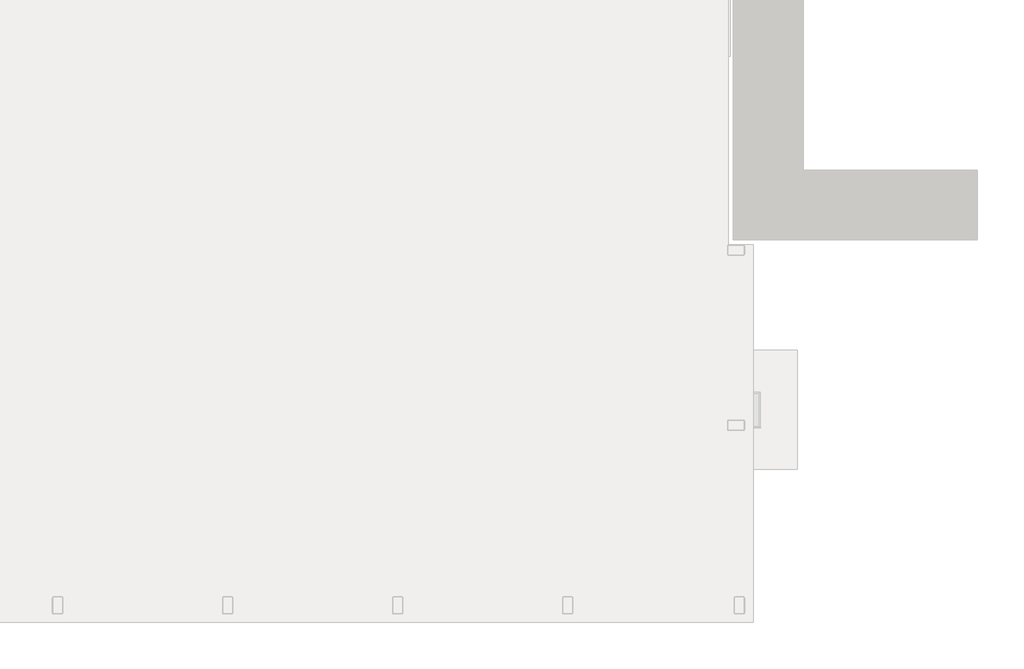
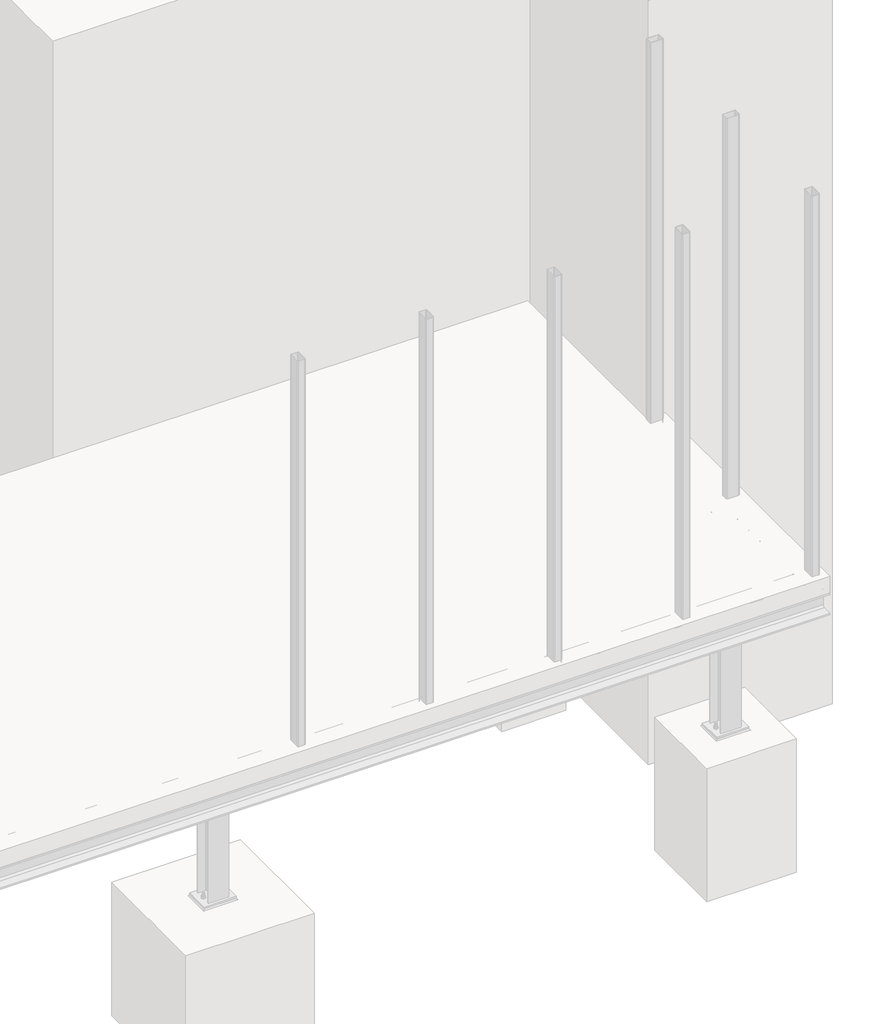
# One storey, part 16 of 36: 11 proxies.
"""IFC4 building model written with IfcOpenShell, lengths in millimetres."""

from ifc_helpers import new_model, si_unit, point, frame, frame_2d, origin, place, context, project, spatial, polyline, circle_curve, trimmed, segment, composite_curve, outline, extrude, element, save

model = new_model("IFC4")

# Units and contexts
model_context = context("Model", 3, world=origin())
ifc_project = project(units=[si_unit("LENGTHUNIT", "METRE", prefix="MILLI")], contexts=[model_context])

# Site, building, storey
site = spatial("IfcSite", under=ifc_project)
building = spatial("IfcBuilding", under=site)
storey = spatial("IfcBuildingStorey", under=building, Name="Základy", Elevation=-1200.0)

# Proxies
placement = place(None, origin())
element("IfcBuildingElementProxy", 1, Name="PLECH", ObjectType="PLECH", at=placement, inside=storey, context=model_context, shape_type="SweptSolid", body=[
    extrude(outline(polyline([(15950.0, 1170.0), (15950.0, 1350.0), (15960.0, 1350.0), (15960.0, 1170.0), (15950.0, 1170.0)])), frame((0.0, 0.0, -332.0), z_axis=(0.0, 0.0, 1.0), x_axis=(1.0, 0.0, 0.0)), (0.0, 0.0, 1.0), 164.0),
])
element("IfcBuildingElementProxy", 2, Name="PLECH", ObjectType="PLECH", at=placement, inside=storey, context=model_context, shape_type="SweptSolid", body=[
    extrude(outline(polyline([(13985.0, 210.0), (14115.0, 210.0), (14115.0, 200.0), (13985.0, 200.0), (13985.0, 210.0)])), frame((0.0, 0.0, -332.0), z_axis=(0.0, 0.0, 1.0), x_axis=(1.0, 0.0, 0.0)), (0.0, 0.0, 1.0), 164.0),
])
element("IfcBuildingElementProxy", 3, Name="PLECH", ObjectType="PLECH", at=placement, inside=storey, context=model_context, shape_type="SweptSolid", body=[
    extrude(outline(polyline([(13985.0, 1160.0), (14115.0, 1160.0), (14115.0, 1150.0), (13985.0, 1150.0), (13985.0, 1160.0)])), frame((0.0, 0.0, -332.0), z_axis=(0.0, 0.0, 1.0), x_axis=(1.0, 0.0, 0.0)), (0.0, 0.0, 1.0), 164.0),
])
element("IfcBuildingElementProxy", 4, Name="PLECH", ObjectType="PLECH", at=placement, inside=storey, context=model_context, shape_type="SweptSolid", body=[
    extrude(outline(composite_curve([segment(polyline([(1170.0, -174.0), (1235.75, -174.0)]), True, "CONTINUOUS"), segment(trimmed(circle_curve(frame_2d((1255.75, -174.0)), 20.0), [point((1235.75, -174.0))], [point((1255.75, -194.0))], True, "CARTESIAN"), True, "CONTINUOUS"), segment(polyline([(1255.75, -194.0), (1255.75, -306.0)]), True, "CONTINUOUS"), segment(trimmed(circle_curve(frame_2d((1255.75, -326.0)), 20.0), [point((1255.75, -306.0))], [point((1235.75, -326.0))], True, "CARTESIAN"), True, "CONTINUOUS"), segment(polyline([(1235.75, -326.0), (1170.0, -326.0), (1170.0, -174.0)]), True, "CONTINUOUS")], self_intersect=False)), frame((14046.0, 0.0, 0.0), z_axis=(1.0, 0.0, 0.0), x_axis=(0.0, 1.0, 0.0)), (0.0, 0.0, 1.0), 8.0),
])
element("IfcBuildingElementProxy", 5, Name="PLECH", ObjectType="PLECH", at=placement, inside=storey, context=model_context, shape_type="SweptSolid", body=[
    extrude(outline(polyline([(13985.0, 1170.0), (14115.0, 1170.0), (14115.0, 1160.0), (13985.0, 1160.0), (13985.0, 1170.0)])), frame((0.0, 0.0, -332.0), z_axis=(0.0, 0.0, 1.0), x_axis=(1.0, 0.0, 0.0)), (0.0, 0.0, 1.0), 164.0),
])
element("IfcBuildingElementProxy", 6, Name="PLECH", ObjectType="PLECH", at=placement, inside=storey, context=model_context, shape_type="SweptSolid", body=[
    extrude(outline(composite_curve([segment(polyline([(1350.0, -174.0), (1350.0, -326.0), (1284.25, -326.0)]), True, "CONTINUOUS"), segment(trimmed(circle_curve(frame_2d((1264.25, -326.0)), 20.0), [point((1284.25, -326.0))], [point((1264.25, -306.0))], True, "CARTESIAN"), True, "CONTINUOUS"), segment(polyline([(1264.25, -306.0), (1264.25, -194.0)]), True, "CONTINUOUS"), segment(trimmed(circle_curve(frame_2d((1264.25, -174.0)), 20.0), [point((1264.25, -194.0))], [point((1284.25, -174.0))], True, "CARTESIAN"), True, "CONTINUOUS"), segment(polyline([(1284.25, -174.0), (1350.0, -174.0)]), True, "CONTINUOUS")], self_intersect=False)), frame((14046.0, 0.0, 0.0), z_axis=(1.0, 0.0, 0.0), x_axis=(0.0, 1.0, 0.0)), (0.0, 0.0, 1.0), 8.0),
])
element("IfcBuildingElementProxy", 7, Name="PLECH", ObjectType="PLECH", at=placement, inside=storey, context=model_context, shape_type="SweptSolid", body=[
    extrude(outline(polyline([(13985.0, 1360.0), (14115.0, 1360.0), (14115.0, 1350.0), (13985.0, 1350.0), (13985.0, 1360.0)])), frame((0.0, 0.0, -332.0), z_axis=(0.0, 0.0, 1.0), x_axis=(1.0, 0.0, 0.0)), (0.0, 0.0, 1.0), 164.0),
])
element("IfcBuildingElementProxy", 8, Name="PLECH", ObjectType="PLECH", at=placement, inside=storey, context=model_context, shape_type="SweptSolid", body=[
    extrude(outline(polyline([(13985.0, 1370.0), (14115.0, 1370.0), (14115.0, 1360.0), (13985.0, 1360.0), (13985.0, 1370.0)])), frame((0.0, 0.0, -332.0), z_axis=(0.0, 0.0, 1.0), x_axis=(1.0, 0.0, 0.0)), (0.0, 0.0, 1.0), 164.0),
])
element("IfcBuildingElementProxy", 9, Name="Bolt assembly", ObjectType="Bolt assembly", at=placement, inside=storey, context=model_context, shape_type="SweptSolid", body=[
    extrude(outline(composite_curve([segment(trimmed(circle_curve(frame_2d((-290.0, 14015.0)), 9.0), [point((-290.0, 14024.0))], [point((-290.0, 14006.0))], False, "CARTESIAN"), True, "CONTINUOUS"), segment(trimmed(circle_curve(frame_2d((-290.0, 14015.0)), 9.0), [point((-290.0, 14006.0))], [point((-290.0, 14024.0))], False, "CARTESIAN"), True, "CONTINUOUS")], self_intersect=False)), frame((0.0, 190.1, 0.0), z_axis=(0.0, 1.0, 0.0), x_axis=(0.0, 0.0, 1.0)), (0.0, 0.0, 1.0), 10.0),
    extrude(outline(polyline([(-290.0, 14028.8564065), (-278.0, 14021.9282032), (-278.0, 14008.0717968), (-290.0, 14001.1435935), (-302.0, 14008.0717968), (-302.0, 14021.9282032), (-290.0, 14028.8564065)])), frame((0.0, 177.0, 0.0), z_axis=(0.0, 1.0, 0.0), x_axis=(0.0, 0.0, 1.0)), (0.0, 0.0, 1.0), 10.0),
    extrude(outline(composite_curve([segment(trimmed(circle_curve(frame_2d((-290.0, 14015.0)), 8.0), [point((-290.0, 14023.0))], [point((-290.0, 14007.0))], False, "CARTESIAN"), True, "CONTINUOUS"), segment(trimmed(circle_curve(frame_2d((-290.0, 14015.0)), 8.0), [point((-290.0, 14007.0))], [point((-290.0, 14023.0))], False, "CARTESIAN"), True, "CONTINUOUS")], self_intersect=False)), frame((0.0, 187.0, 0.0), z_axis=(0.0, 1.0, 0.0), x_axis=(0.0, 0.0, 1.0)), (0.0, 0.0, 1.0), 50.0),
    extrude(outline(composite_curve([segment(trimmed(circle_curve(frame_2d((-290.0, 14015.0)), 15.0), [point((-290.0, 14030.0))], [point((-290.0, 14000.0))], False, "CARTESIAN"), True, "CONTINUOUS"), segment(trimmed(circle_curve(frame_2d((-290.0, 14015.0)), 15.0), [point((-290.0, 14000.0))], [point((-290.0, 14030.0))], False, "CARTESIAN"), True, "CONTINUOUS")], self_intersect=False)), frame((0.0, 187.0, 0.0), z_axis=(0.0, 1.0, 0.0), x_axis=(0.0, 0.0, 1.0)), (0.0, 0.0, 1.0), 3.0),
    extrude(outline(composite_curve([segment(trimmed(circle_curve(frame_2d((-290.0, 14015.0)), 15.0), [point((-290.0, 14030.0))], [point((-290.0, 14000.0))], False, "CARTESIAN"), True, "CONTINUOUS"), segment(trimmed(circle_curve(frame_2d((-290.0, 14015.0)), 15.0), [point((-290.0, 14000.0))], [point((-290.0, 14030.0))], False, "CARTESIAN"), True, "CONTINUOUS")], self_intersect=False)), frame((0.0, 210.0, 0.0), z_axis=(0.0, 1.0, 0.0), x_axis=(0.0, 0.0, 1.0)), (0.0, 0.0, 1.0), 3.0),
    extrude(outline(polyline([(-290.0, 14030.4441197), (-276.625, 14022.7220599), (-276.625, 14007.2779401), (-290.0, 13999.5558803), (-303.375, 14007.2779401), (-303.375, 14022.7220599), (-290.0, 14030.4441197)])), frame((0.0, 213.0, 0.0), z_axis=(0.0, 1.0, 0.0), x_axis=(0.0, 0.0, 1.0)), (0.0, 0.0, 1.0), 13.0),
    extrude(outline(composite_curve([segment(trimmed(circle_curve(frame_2d((-290.0, 14015.0)), 9.0), [point((-290.0, 14024.0))], [point((-290.0, 14006.0))], False, "CARTESIAN"), True, "CONTINUOUS"), segment(trimmed(circle_curve(frame_2d((-290.0, 14015.0)), 9.0), [point((-290.0, 14006.0))], [point((-290.0, 14024.0))], False, "CARTESIAN"), True, "CONTINUOUS")], self_intersect=False)), frame((0.0, 199.9, 0.0), z_axis=(0.0, 1.0, 0.0), x_axis=(0.0, 0.0, 1.0)), (0.0, 0.0, 1.0), 10.1),
    extrude(outline(composite_curve([segment(trimmed(circle_curve(frame_2d((-290.0, 14085.0)), 9.0), [point((-290.0, 14094.0))], [point((-290.0, 14076.0))], False, "CARTESIAN"), True, "CONTINUOUS"), segment(trimmed(circle_curve(frame_2d((-290.0, 14085.0)), 9.0), [point((-290.0, 14076.0))], [point((-290.0, 14094.0))], False, "CARTESIAN"), True, "CONTINUOUS")], self_intersect=False)), frame((0.0, 190.1, 0.0), z_axis=(0.0, 1.0, 0.0), x_axis=(0.0, 0.0, 1.0)), (0.0, 0.0, 1.0), 10.0),
    extrude(outline(polyline([(-290.0, 14098.8564065), (-278.0, 14091.9282032), (-278.0, 14078.0717968), (-290.0, 14071.1435935), (-302.0, 14078.0717968), (-302.0, 14091.9282032), (-290.0, 14098.8564065)])), frame((0.0, 177.0, 0.0), z_axis=(0.0, 1.0, 0.0), x_axis=(0.0, 0.0, 1.0)), (0.0, 0.0, 1.0), 10.0),
    extrude(outline(composite_curve([segment(trimmed(circle_curve(frame_2d((-290.0, 14085.0)), 8.0), [point((-290.0, 14093.0))], [point((-290.0, 14077.0))], False, "CARTESIAN"), True, "CONTINUOUS"), segment(trimmed(circle_curve(frame_2d((-290.0, 14085.0)), 8.0), [point((-290.0, 14077.0))], [point((-290.0, 14093.0))], False, "CARTESIAN"), True, "CONTINUOUS")], self_intersect=False)), frame((0.0, 187.0, 0.0), z_axis=(0.0, 1.0, 0.0), x_axis=(0.0, 0.0, 1.0)), (0.0, 0.0, 1.0), 50.0),
    extrude(outline(composite_curve([segment(trimmed(circle_curve(frame_2d((-290.0, 14085.0)), 15.0), [point((-290.0, 14100.0))], [point((-290.0, 14070.0))], False, "CARTESIAN"), True, "CONTINUOUS"), segment(trimmed(circle_curve(frame_2d((-290.0, 14085.0)), 15.0), [point((-290.0, 14070.0))], [point((-290.0, 14100.0))], False, "CARTESIAN"), True, "CONTINUOUS")], self_intersect=False)), frame((0.0, 187.0, 0.0), z_axis=(0.0, 1.0, 0.0), x_axis=(0.0, 0.0, 1.0)), (0.0, 0.0, 1.0), 3.0),
    extrude(outline(composite_curve([segment(trimmed(circle_curve(frame_2d((-290.0, 14085.0)), 15.0), [point((-290.0, 14100.0))], [point((-290.0, 14070.0))], False, "CARTESIAN"), True, "CONTINUOUS"), segment(trimmed(circle_curve(frame_2d((-290.0, 14085.0)), 15.0), [point((-290.0, 14070.0))], [point((-290.0, 14100.0))], False, "CARTESIAN"), True, "CONTINUOUS")], self_intersect=False)), frame((0.0, 210.0, 0.0), z_axis=(0.0, 1.0, 0.0), x_axis=(0.0, 0.0, 1.0)), (0.0, 0.0, 1.0), 3.0),
    extrude(outline(polyline([(-290.0, 14100.4441197), (-276.625, 14092.7220599), (-276.625, 14077.2779401), (-290.0, 14069.5558803), (-303.375, 14077.2779401), (-303.375, 14092.7220599), (-290.0, 14100.4441197)])), frame((0.0, 213.0, 0.0), z_axis=(0.0, 1.0, 0.0), x_axis=(0.0, 0.0, 1.0)), (0.0, 0.0, 1.0), 13.0),
    extrude(outline(composite_curve([segment(trimmed(circle_curve(frame_2d((-290.0, 14085.0)), 9.0), [point((-290.0, 14094.0))], [point((-290.0, 14076.0))], False, "CARTESIAN"), True, "CONTINUOUS"), segment(trimmed(circle_curve(frame_2d((-290.0, 14085.0)), 9.0), [point((-290.0, 14076.0))], [point((-290.0, 14094.0))], False, "CARTESIAN"), True, "CONTINUOUS")], self_intersect=False)), frame((0.0, 199.9, 0.0), z_axis=(0.0, 1.0, 0.0), x_axis=(0.0, 0.0, 1.0)), (0.0, 0.0, 1.0), 10.1),
    extrude(outline(composite_curve([segment(trimmed(circle_curve(frame_2d((-210.0, 14015.0)), 9.0), [point((-210.0, 14024.0))], [point((-210.0, 14006.0))], False, "CARTESIAN"), True, "CONTINUOUS"), segment(trimmed(circle_curve(frame_2d((-210.0, 14015.0)), 9.0), [point((-210.0, 14006.0))], [point((-210.0, 14024.0))], False, "CARTESIAN"), True, "CONTINUOUS")], self_intersect=False)), frame((0.0, 190.1, 0.0), z_axis=(0.0, 1.0, 0.0), x_axis=(0.0, 0.0, 1.0)), (0.0, 0.0, 1.0), 10.0),
    extrude(outline(polyline([(-210.0, 14028.8564065), (-198.0, 14021.9282032), (-198.0, 14008.0717968), (-210.0, 14001.1435935), (-222.0, 14008.0717968), (-222.0, 14021.9282032), (-210.0, 14028.8564065)])), frame((0.0, 177.0, 0.0), z_axis=(0.0, 1.0, 0.0), x_axis=(0.0, 0.0, 1.0)), (0.0, 0.0, 1.0), 10.0),
    extrude(outline(composite_curve([segment(trimmed(circle_curve(frame_2d((-210.0, 14015.0)), 8.0), [point((-210.0, 14023.0))], [point((-210.0, 14007.0))], False, "CARTESIAN"), True, "CONTINUOUS"), segment(trimmed(circle_curve(frame_2d((-210.0, 14015.0)), 8.0), [point((-210.0, 14007.0))], [point((-210.0, 14023.0))], False, "CARTESIAN"), True, "CONTINUOUS")], self_intersect=False)), frame((0.0, 187.0, 0.0), z_axis=(0.0, 1.0, 0.0), x_axis=(0.0, 0.0, 1.0)), (0.0, 0.0, 1.0), 50.0),
    extrude(outline(composite_curve([segment(trimmed(circle_curve(frame_2d((-210.0, 14015.0)), 15.0), [point((-210.0, 14030.0))], [point((-210.0, 14000.0))], False, "CARTESIAN"), True, "CONTINUOUS"), segment(trimmed(circle_curve(frame_2d((-210.0, 14015.0)), 15.0), [point((-210.0, 14000.0))], [point((-210.0, 14030.0))], False, "CARTESIAN"), True, "CONTINUOUS")], self_intersect=False)), frame((0.0, 187.0, 0.0), z_axis=(0.0, 1.0, 0.0), x_axis=(0.0, 0.0, 1.0)), (0.0, 0.0, 1.0), 3.0),
    extrude(outline(composite_curve([segment(trimmed(circle_curve(frame_2d((-210.0, 14015.0)), 15.0), [point((-210.0, 14030.0))], [point((-210.0, 14000.0))], False, "CARTESIAN"), True, "CONTINUOUS"), segment(trimmed(circle_curve(frame_2d((-210.0, 14015.0)), 15.0), [point((-210.0, 14000.0))], [point((-210.0, 14030.0))], False, "CARTESIAN"), True, "CONTINUOUS")], self_intersect=False)), frame((0.0, 210.0, 0.0), z_axis=(0.0, 1.0, 0.0), x_axis=(0.0, 0.0, 1.0)), (0.0, 0.0, 1.0), 3.0),
    extrude(outline(polyline([(-210.0, 14030.4441197), (-196.625, 14022.7220599), (-196.625, 14007.2779401), (-210.0, 13999.5558803), (-223.375, 14007.2779401), (-223.375, 14022.7220599), (-210.0, 14030.4441197)])), frame((0.0, 213.0, 0.0), z_axis=(0.0, 1.0, 0.0), x_axis=(0.0, 0.0, 1.0)), (0.0, 0.0, 1.0), 13.0),
    extrude(outline(composite_curve([segment(trimmed(circle_curve(frame_2d((-210.0, 14015.0)), 9.0), [point((-210.0, 14024.0))], [point((-210.0, 14006.0))], False, "CARTESIAN"), True, "CONTINUOUS"), segment(trimmed(circle_curve(frame_2d((-210.0, 14015.0)), 9.0), [point((-210.0, 14006.0))], [point((-210.0, 14024.0))], False, "CARTESIAN"), True, "CONTINUOUS")], self_intersect=False)), frame((0.0, 199.9, 0.0), z_axis=(0.0, 1.0, 0.0), x_axis=(0.0, 0.0, 1.0)), (0.0, 0.0, 1.0), 10.1),
    extrude(outline(composite_curve([segment(trimmed(circle_curve(frame_2d((-210.0, 14085.0)), 9.0), [point((-210.0, 14094.0))], [point((-210.0, 14076.0))], False, "CARTESIAN"), True, "CONTINUOUS"), segment(trimmed(circle_curve(frame_2d((-210.0, 14085.0)), 9.0), [point((-210.0, 14076.0))], [point((-210.0, 14094.0))], False, "CARTESIAN"), True, "CONTINUOUS")], self_intersect=False)), frame((0.0, 190.1, 0.0), z_axis=(0.0, 1.0, 0.0), x_axis=(0.0, 0.0, 1.0)), (0.0, 0.0, 1.0), 10.0),
    extrude(outline(polyline([(-210.0, 14098.8564065), (-198.0, 14091.9282032), (-198.0, 14078.0717968), (-210.0, 14071.1435935), (-222.0, 14078.0717968), (-222.0, 14091.9282032), (-210.0, 14098.8564065)])), frame((0.0, 177.0, 0.0), z_axis=(0.0, 1.0, 0.0), x_axis=(0.0, 0.0, 1.0)), (0.0, 0.0, 1.0), 10.0),
    extrude(outline(composite_curve([segment(trimmed(circle_curve(frame_2d((-210.0, 14085.0)), 8.0), [point((-210.0, 14093.0))], [point((-210.0, 14077.0))], False, "CARTESIAN"), True, "CONTINUOUS"), segment(trimmed(circle_curve(frame_2d((-210.0, 14085.0)), 8.0), [point((-210.0, 14077.0))], [point((-210.0, 14093.0))], False, "CARTESIAN"), True, "CONTINUOUS")], self_intersect=False)), frame((0.0, 187.0, 0.0), z_axis=(0.0, 1.0, 0.0), x_axis=(0.0, 0.0, 1.0)), (0.0, 0.0, 1.0), 50.0),
    extrude(outline(composite_curve([segment(trimmed(circle_curve(frame_2d((-210.0, 14085.0)), 15.0), [point((-210.0, 14100.0))], [point((-210.0, 14070.0))], False, "CARTESIAN"), True, "CONTINUOUS"), segment(trimmed(circle_curve(frame_2d((-210.0, 14085.0)), 15.0), [point((-210.0, 14070.0))], [point((-210.0, 14100.0))], False, "CARTESIAN"), True, "CONTINUOUS")], self_intersect=False)), frame((0.0, 187.0, 0.0), z_axis=(0.0, 1.0, 0.0), x_axis=(0.0, 0.0, 1.0)), (0.0, 0.0, 1.0), 3.0),
    extrude(outline(composite_curve([segment(trimmed(circle_curve(frame_2d((-210.0, 14085.0)), 15.0), [point((-210.0, 14100.0))], [point((-210.0, 14070.0))], False, "CARTESIAN"), True, "CONTINUOUS"), segment(trimmed(circle_curve(frame_2d((-210.0, 14085.0)), 15.0), [point((-210.0, 14070.0))], [point((-210.0, 14100.0))], False, "CARTESIAN"), True, "CONTINUOUS")], self_intersect=False)), frame((0.0, 210.0, 0.0), z_axis=(0.0, 1.0, 0.0), x_axis=(0.0, 0.0, 1.0)), (0.0, 0.0, 1.0), 3.0),
    extrude(outline(polyline([(-210.0, 14100.4441197), (-196.625, 14092.7220599), (-196.625, 14077.2779401), (-210.0, 14069.5558803), (-223.375, 14077.2779401), (-223.375, 14092.7220599), (-210.0, 14100.4441197)])), frame((0.0, 213.0, 0.0), z_axis=(0.0, 1.0, 0.0), x_axis=(0.0, 0.0, 1.0)), (0.0, 0.0, 1.0), 13.0),
    extrude(outline(composite_curve([segment(trimmed(circle_curve(frame_2d((-210.0, 14085.0)), 9.0), [point((-210.0, 14094.0))], [point((-210.0, 14076.0))], False, "CARTESIAN"), True, "CONTINUOUS"), segment(trimmed(circle_curve(frame_2d((-210.0, 14085.0)), 9.0), [point((-210.0, 14076.0))], [point((-210.0, 14094.0))], False, "CARTESIAN"), True, "CONTINUOUS")], self_intersect=False)), frame((0.0, 199.9, 0.0), z_axis=(0.0, 1.0, 0.0), x_axis=(0.0, 0.0, 1.0)), (0.0, 0.0, 1.0), 10.1),
])
element("IfcBuildingElementProxy", 10, Name="Bolt assembly", ObjectType="Bolt assembly", at=placement, inside=storey, context=model_context, shape_type="SweptSolid", body=[
    extrude(outline(composite_curve([segment(trimmed(circle_curve(frame_2d((-290.0, 14015.0)), 9.0), [point((-290.0, 14024.0))], [point((-290.0, 14006.0))], False, "CARTESIAN"), True, "CONTINUOUS"), segment(trimmed(circle_curve(frame_2d((-290.0, 14015.0)), 9.0), [point((-290.0, 14006.0))], [point((-290.0, 14024.0))], False, "CARTESIAN"), True, "CONTINUOUS")], self_intersect=False)), frame((0.0, 1159.9, 0.0), z_axis=(0.0, 1.0, 0.0), x_axis=(0.0, 0.0, 1.0)), (0.0, 0.0, 1.0), 10.0),
    extrude(outline(polyline([(-290.0, 14028.8564065), (-278.0, 14021.9282032), (-278.0, 14008.0717968), (-290.0, 14001.1435935), (-302.0, 14008.0717968), (-302.0, 14021.9282032), (-290.0, 14028.8564065)])), frame((0.0, 1173.0, 0.0), z_axis=(0.0, 1.0, 0.0), x_axis=(0.0, 0.0, 1.0)), (0.0, 0.0, 1.0), 10.0),
    extrude(outline(composite_curve([segment(trimmed(circle_curve(frame_2d((-290.0, 14015.0)), 8.0), [point((-290.0, 14023.0))], [point((-290.0, 14007.0))], False, "CARTESIAN"), True, "CONTINUOUS"), segment(trimmed(circle_curve(frame_2d((-290.0, 14015.0)), 8.0), [point((-290.0, 14007.0))], [point((-290.0, 14023.0))], False, "CARTESIAN"), True, "CONTINUOUS")], self_intersect=False)), frame((0.0, 1123.0, 0.0), z_axis=(0.0, 1.0, 0.0), x_axis=(0.0, 0.0, 1.0)), (0.0, 0.0, 1.0), 50.0),
    extrude(outline(composite_curve([segment(trimmed(circle_curve(frame_2d((-290.0, 14015.0)), 15.0), [point((-290.0, 14030.0))], [point((-290.0, 14000.0))], False, "CARTESIAN"), True, "CONTINUOUS"), segment(trimmed(circle_curve(frame_2d((-290.0, 14015.0)), 15.0), [point((-290.0, 14000.0))], [point((-290.0, 14030.0))], False, "CARTESIAN"), True, "CONTINUOUS")], self_intersect=False)), frame((0.0, 1170.0, 0.0), z_axis=(0.0, 1.0, 0.0), x_axis=(0.0, 0.0, 1.0)), (0.0, 0.0, 1.0), 3.0),
    extrude(outline(composite_curve([segment(trimmed(circle_curve(frame_2d((-290.0, 14015.0)), 15.0), [point((-290.0, 14030.0))], [point((-290.0, 14000.0))], False, "CARTESIAN"), True, "CONTINUOUS"), segment(trimmed(circle_curve(frame_2d((-290.0, 14015.0)), 15.0), [point((-290.0, 14000.0))], [point((-290.0, 14030.0))], False, "CARTESIAN"), True, "CONTINUOUS")], self_intersect=False)), frame((0.0, 1147.0, 0.0), z_axis=(0.0, 1.0, 0.0), x_axis=(0.0, 0.0, 1.0)), (0.0, 0.0, 1.0), 3.0),
    extrude(outline(polyline([(-290.0, 14030.4441197), (-276.625, 14022.7220599), (-276.625, 14007.2779401), (-290.0, 13999.5558803), (-303.375, 14007.2779401), (-303.375, 14022.7220599), (-290.0, 14030.4441197)])), frame((0.0, 1134.0, 0.0), z_axis=(0.0, 1.0, 0.0), x_axis=(0.0, 0.0, 1.0)), (0.0, 0.0, 1.0), 13.0),
    extrude(outline(composite_curve([segment(trimmed(circle_curve(frame_2d((-290.0, 14015.0)), 9.0), [point((-290.0, 14024.0))], [point((-290.0, 14006.0))], False, "CARTESIAN"), True, "CONTINUOUS"), segment(trimmed(circle_curve(frame_2d((-290.0, 14015.0)), 9.0), [point((-290.0, 14006.0))], [point((-290.0, 14024.0))], False, "CARTESIAN"), True, "CONTINUOUS")], self_intersect=False)), frame((0.0, 1150.0, 0.0), z_axis=(0.0, 1.0, 0.0), x_axis=(0.0, 0.0, 1.0)), (0.0, 0.0, 1.0), 10.1),
    extrude(outline(composite_curve([segment(trimmed(circle_curve(frame_2d((-290.0, 14085.0)), 9.0), [point((-290.0, 14094.0))], [point((-290.0, 14076.0))], False, "CARTESIAN"), True, "CONTINUOUS"), segment(trimmed(circle_curve(frame_2d((-290.0, 14085.0)), 9.0), [point((-290.0, 14076.0))], [point((-290.0, 14094.0))], False, "CARTESIAN"), True, "CONTINUOUS")], self_intersect=False)), frame((0.0, 1159.9, 0.0), z_axis=(0.0, 1.0, 0.0), x_axis=(0.0, 0.0, 1.0)), (0.0, 0.0, 1.0), 10.0),
    extrude(outline(polyline([(-290.0, 14098.8564065), (-278.0, 14091.9282032), (-278.0, 14078.0717968), (-290.0, 14071.1435935), (-302.0, 14078.0717968), (-302.0, 14091.9282032), (-290.0, 14098.8564065)])), frame((0.0, 1173.0, 0.0), z_axis=(0.0, 1.0, 0.0), x_axis=(0.0, 0.0, 1.0)), (0.0, 0.0, 1.0), 10.0),
    extrude(outline(composite_curve([segment(trimmed(circle_curve(frame_2d((-290.0, 14085.0)), 8.0), [point((-290.0, 14093.0))], [point((-290.0, 14077.0))], False, "CARTESIAN"), True, "CONTINUOUS"), segment(trimmed(circle_curve(frame_2d((-290.0, 14085.0)), 8.0), [point((-290.0, 14077.0))], [point((-290.0, 14093.0))], False, "CARTESIAN"), True, "CONTINUOUS")], self_intersect=False)), frame((0.0, 1123.0, 0.0), z_axis=(0.0, 1.0, 0.0), x_axis=(0.0, 0.0, 1.0)), (0.0, 0.0, 1.0), 50.0),
    extrude(outline(composite_curve([segment(trimmed(circle_curve(frame_2d((-290.0, 14085.0)), 15.0), [point((-290.0, 14100.0))], [point((-290.0, 14070.0))], False, "CARTESIAN"), True, "CONTINUOUS"), segment(trimmed(circle_curve(frame_2d((-290.0, 14085.0)), 15.0), [point((-290.0, 14070.0))], [point((-290.0, 14100.0))], False, "CARTESIAN"), True, "CONTINUOUS")], self_intersect=False)), frame((0.0, 1170.0, 0.0), z_axis=(0.0, 1.0, 0.0), x_axis=(0.0, 0.0, 1.0)), (0.0, 0.0, 1.0), 3.0),
    extrude(outline(composite_curve([segment(trimmed(circle_curve(frame_2d((-290.0, 14085.0)), 15.0), [point((-290.0, 14100.0))], [point((-290.0, 14070.0))], False, "CARTESIAN"), True, "CONTINUOUS"), segment(trimmed(circle_curve(frame_2d((-290.0, 14085.0)), 15.0), [point((-290.0, 14070.0))], [point((-290.0, 14100.0))], False, "CARTESIAN"), True, "CONTINUOUS")], self_intersect=False)), frame((0.0, 1147.0, 0.0), z_axis=(0.0, 1.0, 0.0), x_axis=(0.0, 0.0, 1.0)), (0.0, 0.0, 1.0), 3.0),
    extrude(outline(polyline([(-290.0, 14100.4441197), (-276.625, 14092.7220599), (-276.625, 14077.2779401), (-290.0, 14069.5558803), (-303.375, 14077.2779401), (-303.375, 14092.7220599), (-290.0, 14100.4441197)])), frame((0.0, 1134.0, 0.0), z_axis=(0.0, 1.0, 0.0), x_axis=(0.0, 0.0, 1.0)), (0.0, 0.0, 1.0), 13.0),
    extrude(outline(composite_curve([segment(trimmed(circle_curve(frame_2d((-290.0, 14085.0)), 9.0), [point((-290.0, 14094.0))], [point((-290.0, 14076.0))], False, "CARTESIAN"), True, "CONTINUOUS"), segment(trimmed(circle_curve(frame_2d((-290.0, 14085.0)), 9.0), [point((-290.0, 14076.0))], [point((-290.0, 14094.0))], False, "CARTESIAN"), True, "CONTINUOUS")], self_intersect=False)), frame((0.0, 1150.0, 0.0), z_axis=(0.0, 1.0, 0.0), x_axis=(0.0, 0.0, 1.0)), (0.0, 0.0, 1.0), 10.1),
    extrude(outline(composite_curve([segment(trimmed(circle_curve(frame_2d((-210.0, 14015.0)), 9.0), [point((-210.0, 14024.0))], [point((-210.0, 14006.0))], False, "CARTESIAN"), True, "CONTINUOUS"), segment(trimmed(circle_curve(frame_2d((-210.0, 14015.0)), 9.0), [point((-210.0, 14006.0))], [point((-210.0, 14024.0))], False, "CARTESIAN"), True, "CONTINUOUS")], self_intersect=False)), frame((0.0, 1159.9, 0.0), z_axis=(0.0, 1.0, 0.0), x_axis=(0.0, 0.0, 1.0)), (0.0, 0.0, 1.0), 10.0),
    extrude(outline(polyline([(-210.0, 14028.8564065), (-198.0, 14021.9282032), (-198.0, 14008.0717968), (-210.0, 14001.1435935), (-222.0, 14008.0717968), (-222.0, 14021.9282032), (-210.0, 14028.8564065)])), frame((0.0, 1173.0, 0.0), z_axis=(0.0, 1.0, 0.0), x_axis=(0.0, 0.0, 1.0)), (0.0, 0.0, 1.0), 10.0),
    extrude(outline(composite_curve([segment(trimmed(circle_curve(frame_2d((-210.0, 14015.0)), 8.0), [point((-210.0, 14023.0))], [point((-210.0, 14007.0))], False, "CARTESIAN"), True, "CONTINUOUS"), segment(trimmed(circle_curve(frame_2d((-210.0, 14015.0)), 8.0), [point((-210.0, 14007.0))], [point((-210.0, 14023.0))], False, "CARTESIAN"), True, "CONTINUOUS")], self_intersect=False)), frame((0.0, 1123.0, 0.0), z_axis=(0.0, 1.0, 0.0), x_axis=(0.0, 0.0, 1.0)), (0.0, 0.0, 1.0), 50.0),
    extrude(outline(composite_curve([segment(trimmed(circle_curve(frame_2d((-210.0, 14015.0)), 15.0), [point((-210.0, 14030.0))], [point((-210.0, 14000.0))], False, "CARTESIAN"), True, "CONTINUOUS"), segment(trimmed(circle_curve(frame_2d((-210.0, 14015.0)), 15.0), [point((-210.0, 14000.0))], [point((-210.0, 14030.0))], False, "CARTESIAN"), True, "CONTINUOUS")], self_intersect=False)), frame((0.0, 1170.0, 0.0), z_axis=(0.0, 1.0, 0.0), x_axis=(0.0, 0.0, 1.0)), (0.0, 0.0, 1.0), 3.0),
    extrude(outline(composite_curve([segment(trimmed(circle_curve(frame_2d((-210.0, 14015.0)), 15.0), [point((-210.0, 14030.0))], [point((-210.0, 14000.0))], False, "CARTESIAN"), True, "CONTINUOUS"), segment(trimmed(circle_curve(frame_2d((-210.0, 14015.0)), 15.0), [point((-210.0, 14000.0))], [point((-210.0, 14030.0))], False, "CARTESIAN"), True, "CONTINUOUS")], self_intersect=False)), frame((0.0, 1147.0, 0.0), z_axis=(0.0, 1.0, 0.0), x_axis=(0.0, 0.0, 1.0)), (0.0, 0.0, 1.0), 3.0),
    extrude(outline(polyline([(-210.0, 14030.4441197), (-196.625, 14022.7220599), (-196.625, 14007.2779401), (-210.0, 13999.5558803), (-223.375, 14007.2779401), (-223.375, 14022.7220599), (-210.0, 14030.4441197)])), frame((0.0, 1134.0, 0.0), z_axis=(0.0, 1.0, 0.0), x_axis=(0.0, 0.0, 1.0)), (0.0, 0.0, 1.0), 13.0),
    extrude(outline(composite_curve([segment(trimmed(circle_curve(frame_2d((-210.0, 14015.0)), 9.0), [point((-210.0, 14024.0))], [point((-210.0, 14006.0))], False, "CARTESIAN"), True, "CONTINUOUS"), segment(trimmed(circle_curve(frame_2d((-210.0, 14015.0)), 9.0), [point((-210.0, 14006.0))], [point((-210.0, 14024.0))], False, "CARTESIAN"), True, "CONTINUOUS")], self_intersect=False)), frame((0.0, 1150.0, 0.0), z_axis=(0.0, 1.0, 0.0), x_axis=(0.0, 0.0, 1.0)), (0.0, 0.0, 1.0), 10.1),
    extrude(outline(composite_curve([segment(trimmed(circle_curve(frame_2d((-210.0, 14085.0)), 9.0), [point((-210.0, 14094.0))], [point((-210.0, 14076.0))], False, "CARTESIAN"), True, "CONTINUOUS"), segment(trimmed(circle_curve(frame_2d((-210.0, 14085.0)), 9.0), [point((-210.0, 14076.0))], [point((-210.0, 14094.0))], False, "CARTESIAN"), True, "CONTINUOUS")], self_intersect=False)), frame((0.0, 1159.9, 0.0), z_axis=(0.0, 1.0, 0.0), x_axis=(0.0, 0.0, 1.0)), (0.0, 0.0, 1.0), 10.0),
    extrude(outline(polyline([(-210.0, 14098.8564065), (-198.0, 14091.9282032), (-198.0, 14078.0717968), (-210.0, 14071.1435935), (-222.0, 14078.0717968), (-222.0, 14091.9282032), (-210.0, 14098.8564065)])), frame((0.0, 1173.0, 0.0), z_axis=(0.0, 1.0, 0.0), x_axis=(0.0, 0.0, 1.0)), (0.0, 0.0, 1.0), 10.0),
    extrude(outline(composite_curve([segment(trimmed(circle_curve(frame_2d((-210.0, 14085.0)), 8.0), [point((-210.0, 14093.0))], [point((-210.0, 14077.0))], False, "CARTESIAN"), True, "CONTINUOUS"), segment(trimmed(circle_curve(frame_2d((-210.0, 14085.0)), 8.0), [point((-210.0, 14077.0))], [point((-210.0, 14093.0))], False, "CARTESIAN"), True, "CONTINUOUS")], self_intersect=False)), frame((0.0, 1123.0, 0.0), z_axis=(0.0, 1.0, 0.0), x_axis=(0.0, 0.0, 1.0)), (0.0, 0.0, 1.0), 50.0),
    extrude(outline(composite_curve([segment(trimmed(circle_curve(frame_2d((-210.0, 14085.0)), 15.0), [point((-210.0, 14100.0))], [point((-210.0, 14070.0))], False, "CARTESIAN"), True, "CONTINUOUS"), segment(trimmed(circle_curve(frame_2d((-210.0, 14085.0)), 15.0), [point((-210.0, 14070.0))], [point((-210.0, 14100.0))], False, "CARTESIAN"), True, "CONTINUOUS")], self_intersect=False)), frame((0.0, 1170.0, 0.0), z_axis=(0.0, 1.0, 0.0), x_axis=(0.0, 0.0, 1.0)), (0.0, 0.0, 1.0), 3.0),
    extrude(outline(composite_curve([segment(trimmed(circle_curve(frame_2d((-210.0, 14085.0)), 15.0), [point((-210.0, 14100.0))], [point((-210.0, 14070.0))], False, "CARTESIAN"), True, "CONTINUOUS"), segment(trimmed(circle_curve(frame_2d((-210.0, 14085.0)), 15.0), [point((-210.0, 14070.0))], [point((-210.0, 14100.0))], False, "CARTESIAN"), True, "CONTINUOUS")], self_intersect=False)), frame((0.0, 1147.0, 0.0), z_axis=(0.0, 1.0, 0.0), x_axis=(0.0, 0.0, 1.0)), (0.0, 0.0, 1.0), 3.0),
    extrude(outline(polyline([(-210.0, 14100.4441197), (-196.625, 14092.7220599), (-196.625, 14077.2779401), (-210.0, 14069.5558803), (-223.375, 14077.2779401), (-223.375, 14092.7220599), (-210.0, 14100.4441197)])), frame((0.0, 1134.0, 0.0), z_axis=(0.0, 1.0, 0.0), x_axis=(0.0, 0.0, 1.0)), (0.0, 0.0, 1.0), 13.0),
    extrude(outline(composite_curve([segment(trimmed(circle_curve(frame_2d((-210.0, 14085.0)), 9.0), [point((-210.0, 14094.0))], [point((-210.0, 14076.0))], False, "CARTESIAN"), True, "CONTINUOUS"), segment(trimmed(circle_curve(frame_2d((-210.0, 14085.0)), 9.0), [point((-210.0, 14076.0))], [point((-210.0, 14094.0))], False, "CARTESIAN"), True, "CONTINUOUS")], self_intersect=False)), frame((0.0, 1150.0, 0.0), z_axis=(0.0, 1.0, 0.0), x_axis=(0.0, 0.0, 1.0)), (0.0, 0.0, 1.0), 10.1),
])
element("IfcBuildingElementProxy", 11, Name="Bolt assembly", ObjectType="Bolt assembly", at=placement, inside=storey, context=model_context, shape_type="SweptSolid", body=[
    extrude(outline(composite_curve([segment(trimmed(circle_curve(frame_2d((-290.0, 14015.0)), 9.0), [point((-290.0, 14024.0))], [point((-290.0, 14006.0))], False, "CARTESIAN"), True, "CONTINUOUS"), segment(trimmed(circle_curve(frame_2d((-290.0, 14015.0)), 9.0), [point((-290.0, 14006.0))], [point((-290.0, 14024.0))], False, "CARTESIAN"), True, "CONTINUOUS")], self_intersect=False)), frame((0.0, 1350.1, 0.0), z_axis=(0.0, 1.0, 0.0), x_axis=(0.0, 0.0, 1.0)), (0.0, 0.0, 1.0), 10.0),
    extrude(outline(polyline([(-290.0, 14028.8564065), (-278.0, 14021.9282032), (-278.0, 14008.0717968), (-290.0, 14001.1435935), (-302.0, 14008.0717968), (-302.0, 14021.9282032), (-290.0, 14028.8564065)])), frame((0.0, 1337.0, 0.0), z_axis=(0.0, 1.0, 0.0), x_axis=(0.0, 0.0, 1.0)), (0.0, 0.0, 1.0), 10.0),
    extrude(outline(composite_curve([segment(trimmed(circle_curve(frame_2d((-290.0, 14015.0)), 8.0), [point((-290.0, 14023.0))], [point((-290.0, 14007.0))], False, "CARTESIAN"), True, "CONTINUOUS"), segment(trimmed(circle_curve(frame_2d((-290.0, 14015.0)), 8.0), [point((-290.0, 14007.0))], [point((-290.0, 14023.0))], False, "CARTESIAN"), True, "CONTINUOUS")], self_intersect=False)), frame((0.0, 1347.0, 0.0), z_axis=(0.0, 1.0, 0.0), x_axis=(0.0, 0.0, 1.0)), (0.0, 0.0, 1.0), 50.0),
    extrude(outline(composite_curve([segment(trimmed(circle_curve(frame_2d((-290.0, 14015.0)), 15.0), [point((-290.0, 14030.0))], [point((-290.0, 14000.0))], False, "CARTESIAN"), True, "CONTINUOUS"), segment(trimmed(circle_curve(frame_2d((-290.0, 14015.0)), 15.0), [point((-290.0, 14000.0))], [point((-290.0, 14030.0))], False, "CARTESIAN"), True, "CONTINUOUS")], self_intersect=False)), frame((0.0, 1347.0, 0.0), z_axis=(0.0, 1.0, 0.0), x_axis=(0.0, 0.0, 1.0)), (0.0, 0.0, 1.0), 3.0),
    extrude(outline(composite_curve([segment(trimmed(circle_curve(frame_2d((-290.0, 14015.0)), 15.0), [point((-290.0, 14030.0))], [point((-290.0, 14000.0))], False, "CARTESIAN"), True, "CONTINUOUS"), segment(trimmed(circle_curve(frame_2d((-290.0, 14015.0)), 15.0), [point((-290.0, 14000.0))], [point((-290.0, 14030.0))], False, "CARTESIAN"), True, "CONTINUOUS")], self_intersect=False)), frame((0.0, 1370.0, 0.0), z_axis=(0.0, 1.0, 0.0), x_axis=(0.0, 0.0, 1.0)), (0.0, 0.0, 1.0), 3.0),
    extrude(outline(polyline([(-290.0, 14030.4441197), (-276.625, 14022.7220599), (-276.625, 14007.2779401), (-290.0, 13999.5558803), (-303.375, 14007.2779401), (-303.375, 14022.7220599), (-290.0, 14030.4441197)])), frame((0.0, 1373.0, 0.0), z_axis=(0.0, 1.0, 0.0), x_axis=(0.0, 0.0, 1.0)), (0.0, 0.0, 1.0), 13.0),
    extrude(outline(composite_curve([segment(trimmed(circle_curve(frame_2d((-290.0, 14015.0)), 9.0), [point((-290.0, 14024.0))], [point((-290.0, 14006.0))], False, "CARTESIAN"), True, "CONTINUOUS"), segment(trimmed(circle_curve(frame_2d((-290.0, 14015.0)), 9.0), [point((-290.0, 14006.0))], [point((-290.0, 14024.0))], False, "CARTESIAN"), True, "CONTINUOUS")], self_intersect=False)), frame((0.0, 1359.9, 0.0), z_axis=(0.0, 1.0, 0.0), x_axis=(0.0, 0.0, 1.0)), (0.0, 0.0, 1.0), 10.1),
    extrude(outline(composite_curve([segment(trimmed(circle_curve(frame_2d((-290.0, 14085.0)), 9.0), [point((-290.0, 14094.0))], [point((-290.0, 14076.0))], False, "CARTESIAN"), True, "CONTINUOUS"), segment(trimmed(circle_curve(frame_2d((-290.0, 14085.0)), 9.0), [point((-290.0, 14076.0))], [point((-290.0, 14094.0))], False, "CARTESIAN"), True, "CONTINUOUS")], self_intersect=False)), frame((0.0, 1350.1, 0.0), z_axis=(0.0, 1.0, 0.0), x_axis=(0.0, 0.0, 1.0)), (0.0, 0.0, 1.0), 10.0),
    extrude(outline(polyline([(-290.0, 14098.8564065), (-278.0, 14091.9282032), (-278.0, 14078.0717968), (-290.0, 14071.1435935), (-302.0, 14078.0717968), (-302.0, 14091.9282032), (-290.0, 14098.8564065)])), frame((0.0, 1337.0, 0.0), z_axis=(0.0, 1.0, 0.0), x_axis=(0.0, 0.0, 1.0)), (0.0, 0.0, 1.0), 10.0),
    extrude(outline(composite_curve([segment(trimmed(circle_curve(frame_2d((-290.0, 14085.0)), 8.0), [point((-290.0, 14093.0))], [point((-290.0, 14077.0))], False, "CARTESIAN"), True, "CONTINUOUS"), segment(trimmed(circle_curve(frame_2d((-290.0, 14085.0)), 8.0), [point((-290.0, 14077.0))], [point((-290.0, 14093.0))], False, "CARTESIAN"), True, "CONTINUOUS")], self_intersect=False)), frame((0.0, 1347.0, 0.0), z_axis=(0.0, 1.0, 0.0), x_axis=(0.0, 0.0, 1.0)), (0.0, 0.0, 1.0), 50.0),
    extrude(outline(composite_curve([segment(trimmed(circle_curve(frame_2d((-290.0, 14085.0)), 15.0), [point((-290.0, 14100.0))], [point((-290.0, 14070.0))], False, "CARTESIAN"), True, "CONTINUOUS"), segment(trimmed(circle_curve(frame_2d((-290.0, 14085.0)), 15.0), [point((-290.0, 14070.0))], [point((-290.0, 14100.0))], False, "CARTESIAN"), True, "CONTINUOUS")], self_intersect=False)), frame((0.0, 1347.0, 0.0), z_axis=(0.0, 1.0, 0.0), x_axis=(0.0, 0.0, 1.0)), (0.0, 0.0, 1.0), 3.0),
    extrude(outline(composite_curve([segment(trimmed(circle_curve(frame_2d((-290.0, 14085.0)), 15.0), [point((-290.0, 14100.0))], [point((-290.0, 14070.0))], False, "CARTESIAN"), True, "CONTINUOUS"), segment(trimmed(circle_curve(frame_2d((-290.0, 14085.0)), 15.0), [point((-290.0, 14070.0))], [point((-290.0, 14100.0))], False, "CARTESIAN"), True, "CONTINUOUS")], self_intersect=False)), frame((0.0, 1370.0, 0.0), z_axis=(0.0, 1.0, 0.0), x_axis=(0.0, 0.0, 1.0)), (0.0, 0.0, 1.0), 3.0),
    extrude(outline(polyline([(-290.0, 14100.4441197), (-276.625, 14092.7220599), (-276.625, 14077.2779401), (-290.0, 14069.5558803), (-303.375, 14077.2779401), (-303.375, 14092.7220599), (-290.0, 14100.4441197)])), frame((0.0, 1373.0, 0.0), z_axis=(0.0, 1.0, 0.0), x_axis=(0.0, 0.0, 1.0)), (0.0, 0.0, 1.0), 13.0),
    extrude(outline(composite_curve([segment(trimmed(circle_curve(frame_2d((-290.0, 14085.0)), 9.0), [point((-290.0, 14094.0))], [point((-290.0, 14076.0))], False, "CARTESIAN"), True, "CONTINUOUS"), segment(trimmed(circle_curve(frame_2d((-290.0, 14085.0)), 9.0), [point((-290.0, 14076.0))], [point((-290.0, 14094.0))], False, "CARTESIAN"), True, "CONTINUOUS")], self_intersect=False)), frame((0.0, 1359.9, 0.0), z_axis=(0.0, 1.0, 0.0), x_axis=(0.0, 0.0, 1.0)), (0.0, 0.0, 1.0), 10.1),
    extrude(outline(composite_curve([segment(trimmed(circle_curve(frame_2d((-210.0, 14015.0)), 9.0), [point((-210.0, 14024.0))], [point((-210.0, 14006.0))], False, "CARTESIAN"), True, "CONTINUOUS"), segment(trimmed(circle_curve(frame_2d((-210.0, 14015.0)), 9.0), [point((-210.0, 14006.0))], [point((-210.0, 14024.0))], False, "CARTESIAN"), True, "CONTINUOUS")], self_intersect=False)), frame((0.0, 1350.1, 0.0), z_axis=(0.0, 1.0, 0.0), x_axis=(0.0, 0.0, 1.0)), (0.0, 0.0, 1.0), 10.0),
    extrude(outline(polyline([(-210.0, 14028.8564065), (-198.0, 14021.9282032), (-198.0, 14008.0717968), (-210.0, 14001.1435935), (-222.0, 14008.0717968), (-222.0, 14021.9282032), (-210.0, 14028.8564065)])), frame((0.0, 1337.0, 0.0), z_axis=(0.0, 1.0, 0.0), x_axis=(0.0, 0.0, 1.0)), (0.0, 0.0, 1.0), 10.0),
    extrude(outline(composite_curve([segment(trimmed(circle_curve(frame_2d((-210.0, 14015.0)), 8.0), [point((-210.0, 14023.0))], [point((-210.0, 14007.0))], False, "CARTESIAN"), True, "CONTINUOUS"), segment(trimmed(circle_curve(frame_2d((-210.0, 14015.0)), 8.0), [point((-210.0, 14007.0))], [point((-210.0, 14023.0))], False, "CARTESIAN"), True, "CONTINUOUS")], self_intersect=False)), frame((0.0, 1347.0, 0.0), z_axis=(0.0, 1.0, 0.0), x_axis=(0.0, 0.0, 1.0)), (0.0, 0.0, 1.0), 50.0),
    extrude(outline(composite_curve([segment(trimmed(circle_curve(frame_2d((-210.0, 14015.0)), 15.0), [point((-210.0, 14030.0))], [point((-210.0, 14000.0))], False, "CARTESIAN"), True, "CONTINUOUS"), segment(trimmed(circle_curve(frame_2d((-210.0, 14015.0)), 15.0), [point((-210.0, 14000.0))], [point((-210.0, 14030.0))], False, "CARTESIAN"), True, "CONTINUOUS")], self_intersect=False)), frame((0.0, 1347.0, 0.0), z_axis=(0.0, 1.0, 0.0), x_axis=(0.0, 0.0, 1.0)), (0.0, 0.0, 1.0), 3.0),
    extrude(outline(composite_curve([segment(trimmed(circle_curve(frame_2d((-210.0, 14015.0)), 15.0), [point((-210.0, 14030.0))], [point((-210.0, 14000.0))], False, "CARTESIAN"), True, "CONTINUOUS"), segment(trimmed(circle_curve(frame_2d((-210.0, 14015.0)), 15.0), [point((-210.0, 14000.0))], [point((-210.0, 14030.0))], False, "CARTESIAN"), True, "CONTINUOUS")], self_intersect=False)), frame((0.0, 1370.0, 0.0), z_axis=(0.0, 1.0, 0.0), x_axis=(0.0, 0.0, 1.0)), (0.0, 0.0, 1.0), 3.0),
    extrude(outline(polyline([(-210.0, 14030.4441197), (-196.625, 14022.7220599), (-196.625, 14007.2779401), (-210.0, 13999.5558803), (-223.375, 14007.2779401), (-223.375, 14022.7220599), (-210.0, 14030.4441197)])), frame((0.0, 1373.0, 0.0), z_axis=(0.0, 1.0, 0.0), x_axis=(0.0, 0.0, 1.0)), (0.0, 0.0, 1.0), 13.0),
    extrude(outline(composite_curve([segment(trimmed(circle_curve(frame_2d((-210.0, 14015.0)), 9.0), [point((-210.0, 14024.0))], [point((-210.0, 14006.0))], False, "CARTESIAN"), True, "CONTINUOUS"), segment(trimmed(circle_curve(frame_2d((-210.0, 14015.0)), 9.0), [point((-210.0, 14006.0))], [point((-210.0, 14024.0))], False, "CARTESIAN"), True, "CONTINUOUS")], self_intersect=False)), frame((0.0, 1359.9, 0.0), z_axis=(0.0, 1.0, 0.0), x_axis=(0.0, 0.0, 1.0)), (0.0, 0.0, 1.0), 10.1),
    extrude(outline(composite_curve([segment(trimmed(circle_curve(frame_2d((-210.0, 14085.0)), 9.0), [point((-210.0, 14094.0))], [point((-210.0, 14076.0))], False, "CARTESIAN"), True, "CONTINUOUS"), segment(trimmed(circle_curve(frame_2d((-210.0, 14085.0)), 9.0), [point((-210.0, 14076.0))], [point((-210.0, 14094.0))], False, "CARTESIAN"), True, "CONTINUOUS")], self_intersect=False)), frame((0.0, 1350.1, 0.0), z_axis=(0.0, 1.0, 0.0), x_axis=(0.0, 0.0, 1.0)), (0.0, 0.0, 1.0), 10.0),
    extrude(outline(polyline([(-210.0, 14098.8564065), (-198.0, 14091.9282032), (-198.0, 14078.0717968), (-210.0, 14071.1435935), (-222.0, 14078.0717968), (-222.0, 14091.9282032), (-210.0, 14098.8564065)])), frame((0.0, 1337.0, 0.0), z_axis=(0.0, 1.0, 0.0), x_axis=(0.0, 0.0, 1.0)), (0.0, 0.0, 1.0), 10.0),
    extrude(outline(composite_curve([segment(trimmed(circle_curve(frame_2d((-210.0, 14085.0)), 8.0), [point((-210.0, 14093.0))], [point((-210.0, 14077.0))], False, "CARTESIAN"), True, "CONTINUOUS"), segment(trimmed(circle_curve(frame_2d((-210.0, 14085.0)), 8.0), [point((-210.0, 14077.0))], [point((-210.0, 14093.0))], False, "CARTESIAN"), True, "CONTINUOUS")], self_intersect=False)), frame((0.0, 1347.0, 0.0), z_axis=(0.0, 1.0, 0.0), x_axis=(0.0, 0.0, 1.0)), (0.0, 0.0, 1.0), 50.0),
    extrude(outline(composite_curve([segment(trimmed(circle_curve(frame_2d((-210.0, 14085.0)), 15.0), [point((-210.0, 14100.0))], [point((-210.0, 14070.0))], False, "CARTESIAN"), True, "CONTINUOUS"), segment(trimmed(circle_curve(frame_2d((-210.0, 14085.0)), 15.0), [point((-210.0, 14070.0))], [point((-210.0, 14100.0))], False, "CARTESIAN"), True, "CONTINUOUS")], self_intersect=False)), frame((0.0, 1347.0, 0.0), z_axis=(0.0, 1.0, 0.0), x_axis=(0.0, 0.0, 1.0)), (0.0, 0.0, 1.0), 3.0),
    extrude(outline(composite_curve([segment(trimmed(circle_curve(frame_2d((-210.0, 14085.0)), 15.0), [point((-210.0, 14100.0))], [point((-210.0, 14070.0))], False, "CARTESIAN"), True, "CONTINUOUS"), segment(trimmed(circle_curve(frame_2d((-210.0, 14085.0)), 15.0), [point((-210.0, 14070.0))], [point((-210.0, 14100.0))], False, "CARTESIAN"), True, "CONTINUOUS")], self_intersect=False)), frame((0.0, 1370.0, 0.0), z_axis=(0.0, 1.0, 0.0), x_axis=(0.0, 0.0, 1.0)), (0.0, 0.0, 1.0), 3.0),
    extrude(outline(polyline([(-210.0, 14100.4441197), (-196.625, 14092.7220599), (-196.625, 14077.2779401), (-210.0, 14069.5558803), (-223.375, 14077.2779401), (-223.375, 14092.7220599), (-210.0, 14100.4441197)])), frame((0.0, 1373.0, 0.0), z_axis=(0.0, 1.0, 0.0), x_axis=(0.0, 0.0, 1.0)), (0.0, 0.0, 1.0), 13.0),
    extrude(outline(composite_curve([segment(trimmed(circle_curve(frame_2d((-210.0, 14085.0)), 9.0), [point((-210.0, 14094.0))], [point((-210.0, 14076.0))], False, "CARTESIAN"), True, "CONTINUOUS"), segment(trimmed(circle_curve(frame_2d((-210.0, 14085.0)), 9.0), [point((-210.0, 14076.0))], [point((-210.0, 14094.0))], False, "CARTESIAN"), True, "CONTINUOUS")], self_intersect=False)), frame((0.0, 1359.9, 0.0), z_axis=(0.0, 1.0, 0.0), x_axis=(0.0, 0.0, 1.0)), (0.0, 0.0, 1.0), 10.1),
])

save(model, "model.ifc")
